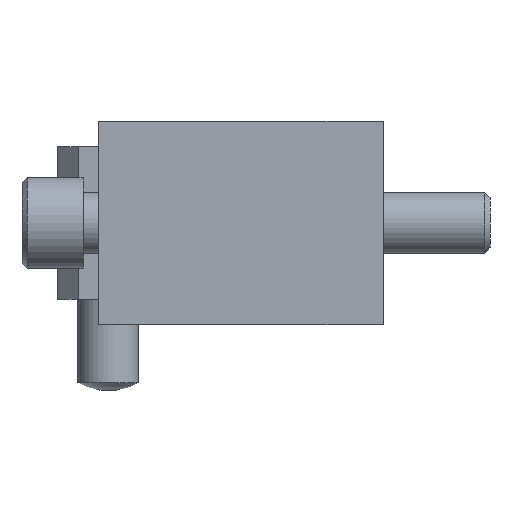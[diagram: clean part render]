
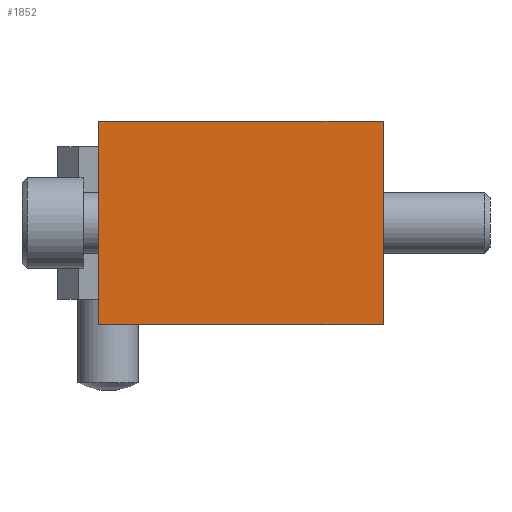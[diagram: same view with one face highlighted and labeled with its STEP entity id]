
A CAD part, left-side view. The second image highlights one B-rep face of the part: STEP entity #1852.
In plain terms, the highlighted planar face has unit normal (-1, 0, 0).
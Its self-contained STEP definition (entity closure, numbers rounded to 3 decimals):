
#179=ORIENTED_EDGE('',*,*,#639,.T.);
#180=ORIENTED_EDGE('',*,*,#640,.F.);
#181=ORIENTED_EDGE('',*,*,#641,.F.);
#182=ORIENTED_EDGE('',*,*,#642,.T.);
#639=EDGE_CURVE('',#869,#870,#1042,.T.);
#640=EDGE_CURVE('',#871,#870,#1043,.T.);
#641=EDGE_CURVE('',#872,#871,#1044,.T.);
#642=EDGE_CURVE('',#872,#869,#1045,.T.);
#869=VERTEX_POINT('',#2839);
#870=VERTEX_POINT('',#2840);
#871=VERTEX_POINT('',#2842);
#872=VERTEX_POINT('',#2844);
#1042=LINE('',#2838,#1214);
#1043=LINE('',#2841,#1215);
#1044=LINE('',#2843,#1216);
#1045=LINE('',#2845,#1217);
#1214=VECTOR('',#2284,1000.);
#1215=VECTOR('',#2285,1000.);
#1216=VECTOR('',#2286,1000.);
#1217=VECTOR('',#2287,1000.);
#1386=EDGE_LOOP('',(#179,#180,#181,#182));
#1576=FACE_BOUND('',#1386,.T.);
#1767=PLANE('',#2089);
#1852=ADVANCED_FACE('',(#1576),#1767,.F.);
#2089=AXIS2_PLACEMENT_3D('',#2837,#2282,#2283);
#2282=DIRECTION('',(1.,0.,0.));
#2283=DIRECTION('',(0.,0.,-1.));
#2284=DIRECTION('',(0.,0.,1.));
#2285=DIRECTION('',(0.,-1.,0.));
#2286=DIRECTION('',(0.,0.,1.));
#2287=DIRECTION('',(0.,-1.,0.));
#2837=CARTESIAN_POINT('',(0.,56.,-20.));
#2838=CARTESIAN_POINT('',(0.,0.,-20.));
#2839=CARTESIAN_POINT('',(0.,0.,-20.));
#2840=CARTESIAN_POINT('',(0.,0.,20.));
#2841=CARTESIAN_POINT('',(0.,56.,20.));
#2842=CARTESIAN_POINT('',(0.,56.,20.));
#2843=CARTESIAN_POINT('',(0.,56.,-20.));
#2844=CARTESIAN_POINT('',(0.,56.,-20.));
#2845=CARTESIAN_POINT('',(0.,56.,-20.));
